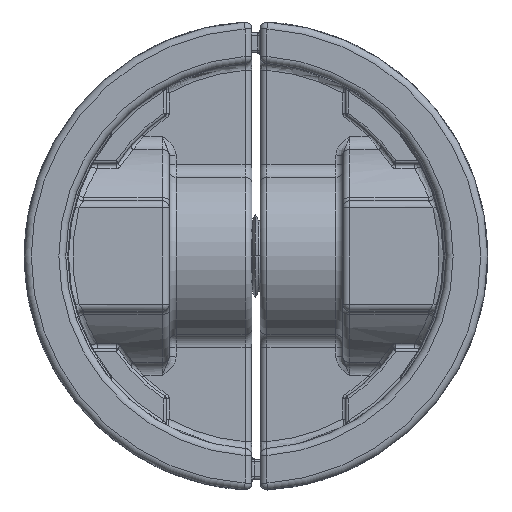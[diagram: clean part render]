
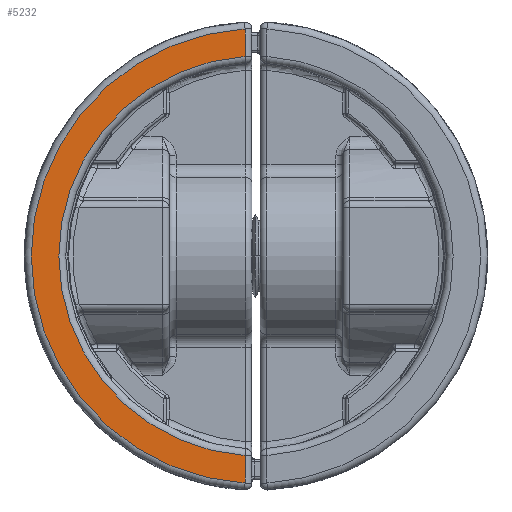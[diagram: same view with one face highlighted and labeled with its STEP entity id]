
A CAD part, left-side view. The second image highlights one B-rep face of the part: STEP entity #5232.
In plain terms, the highlighted planar face has unit normal (-1, 0, 0) as drawn and (0, 1, 0) by its records, which use the part's own axes.
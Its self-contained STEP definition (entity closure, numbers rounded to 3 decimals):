
#969 = FACE_OUTER_BOUND ( 'NONE', #12246, .T. ) ;
#2460 = EDGE_CURVE ( 'NONE', #16659, #16657, #5896, .T. ) ;
#2461 = EDGE_CURVE ( 'NONE', #16657, #16663, #5891, .T. ) ;
#2462 = EDGE_CURVE ( 'NONE', #16663, #16664, #5900, .T. ) ;
#2463 = EDGE_CURVE ( 'NONE', #16664, #16659, #5901, .T. ) ;
#3740 = DIRECTION ( 'NONE',  ( 1., 0., 0. ) ) ;
#3744 = CARTESIAN_POINT ( 'NONE',  ( 16.993, 45.75, -0.5 ) ) ;
#3745 = CARTESIAN_POINT ( 'NONE',  ( -13.991, 45.75, -0.5 ) ) ;
#3746 = DIRECTION ( 'NONE',  ( 1., 0., 0. ) ) ;
#3749 = CARTESIAN_POINT ( 'NONE',  ( 0., 45.75, 0.5 ) ) ;
#3750 = DIRECTION ( 'NONE',  ( 0., 1., 0. ) ) ;
#3751 = DIRECTION ( 'NONE',  ( 0., 0., 1. ) ) ;
#3754 = CARTESIAN_POINT ( 'NONE',  ( 0., 45.75, 0.5 ) ) ;
#3755 = DIRECTION ( 'NONE',  ( 0., -1., 0. ) ) ;
#3756 = DIRECTION ( 'NONE',  ( 0., 0., 1. ) ) ;
#5232 = ADVANCED_FACE ( 'NONE', ( #969 ), #13118, .T. ) ;
#5891 = CIRCLE ( 'NONE', #8053, 16.5 ) ;
#5896 = LINE ( 'NONE', #3744, #5899 ) ;
#5899 = VECTOR ( 'NONE', #3746, 1000. ) ;
#5900 = LINE ( 'NONE', #3745, #5902 ) ;
#5901 = CIRCLE ( 'NONE', #8055, 14.5 ) ;
#5902 = VECTOR ( 'NONE', #3740, 1000. ) ;
#8053 = AXIS2_PLACEMENT_3D ( 'NONE', #3749, #3750, #3751 ) ;
#8055 = AXIS2_PLACEMENT_3D ( 'NONE', #3754, #3755, #3756 ) ;
#9387 = CARTESIAN_POINT ( 'NONE',  ( -14.465, 45.75, -0.5 ) ) ;
#9407 = CARTESIAN_POINT ( 'NONE',  ( 14.465, 45.75, -0.5 ) ) ;
#9409 = CARTESIAN_POINT ( 'NONE',  ( 16.47, 45.75, -0.5 ) ) ;
#9444 = CARTESIAN_POINT ( 'NONE',  ( -16.47, 45.75, -0.5 ) ) ;
#10148 = AXIS2_PLACEMENT_3D ( 'NONE', #13119, #13123, #13124 ) ;
#12246 = EDGE_LOOP ( 'NONE', ( #16030, #16031, #16032, #16033 ) ) ;
#13118 = PLANE ( 'NONE',  #10148 ) ;
#13119 = CARTESIAN_POINT ( 'NONE',  ( 0., 45.75, 0.5 ) ) ;
#13123 = DIRECTION ( 'NONE',  ( 0., 1., 0. ) ) ;
#13124 = DIRECTION ( 'NONE',  ( 0., 0., 1. ) ) ;
#16030 = ORIENTED_EDGE ( 'NONE', *, *, #2460, .T. ) ;
#16031 = ORIENTED_EDGE ( 'NONE', *, *, #2461, .T. ) ;
#16032 = ORIENTED_EDGE ( 'NONE', *, *, #2462, .T. ) ;
#16033 = ORIENTED_EDGE ( 'NONE', *, *, #2463, .T. ) ;
#16657 = VERTEX_POINT ( 'NONE', #9409 ) ;
#16659 = VERTEX_POINT ( 'NONE', #9407 ) ;
#16663 = VERTEX_POINT ( 'NONE', #9444 ) ;
#16664 = VERTEX_POINT ( 'NONE', #9387 ) ;
